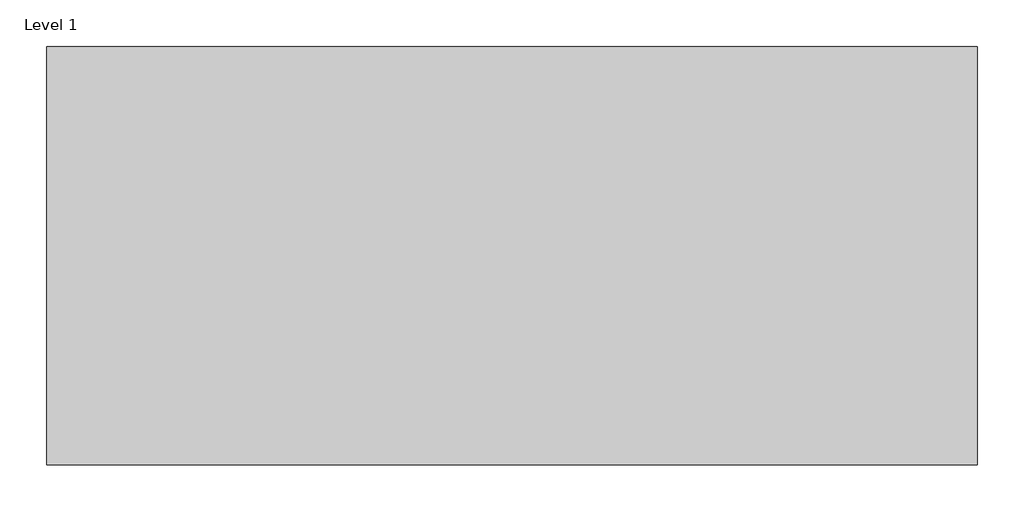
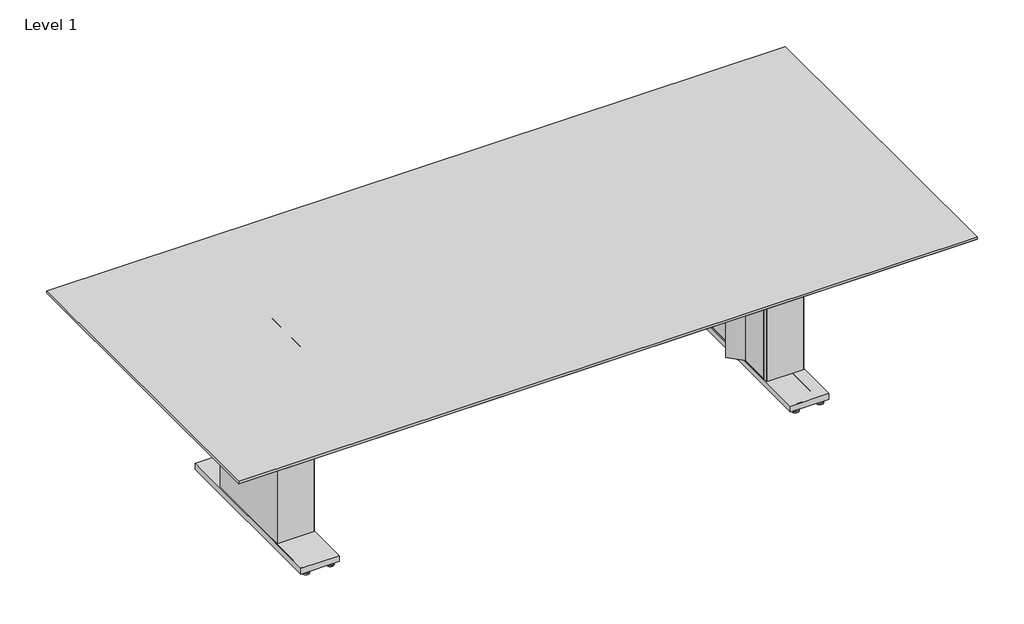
# One storey, incomplete: 35 proxies.
"""IFC4 building model written with IfcOpenShell, lengths in millimetres."""

from ifc_helpers import new_model, si_unit, origin, place, context, project, spatial, transform, mapped, element, save
from components import generic_models_c50f7457, generic_models_df8657d8, generic_models_0eff05cb, generic_models_6af799cc, generic_models_e8d2fbf6, generic_models_48fb121b, generic_models_4dc68a47, generic_models_ab58716d, generic_models_3069075b, proxy_30_table_base_40ca9fa9

model = new_model("IFC4")

# Units and contexts
model_context = context("Model", 3, world=origin())
ifc_project = project(units=[si_unit("LENGTHUNIT", "METRE", prefix="MILLI")], contexts=[model_context])

# Site, building, storey
site = spatial("IfcSite", under=ifc_project)
building = spatial("IfcBuilding", under=site)
storey = spatial("IfcBuildingStorey", under=building, Name="Level 1", Elevation=0.0)

# Proxies
placement = place(None, origin())
generic_models_shape = generic_models_c50f7457(model_context)
element("IfcBuildingElementProxy", 1, Name="AERO^TABLE 5_54120 CTR TROUGH-POWER LID", ObjectType="AERO^TABLE 5_54120 CTR TROUGH-POWER LID", at=placement, inside=storey, context=model_context, shape_type="MappedRepresentation", body=[
    mapped(generic_models_shape, transform((611.1875, -819.15, 736.6), x_axis=(1.0, 0.0, 0.0), y_axis=(0.0, 0.0, 1.0), z_axis=(0.0, -1.0, 0.0))),
])
element("IfcBuildingElementProxy", 2, Name="AERO^TABLE 5_54120 CTR TROUGH-POWER LID", ObjectType="AERO^TABLE 5_54120 CTR TROUGH-POWER LID", at=placement, inside=storey, context=model_context, shape_type="MappedRepresentation", body=[
    mapped(generic_models_shape, transform((2436.8125, -552.4500001, 736.6), x_axis=(-1.0, 0.0, 0.0), y_axis=(0.0, 0.0, 1.0), z_axis=(0.0, 1.0, 0.0))),
])
generic_models_2_shape = generic_models_df8657d8(model_context)
element("IfcBuildingElementProxy", 3, Name="H-QTRGE-84", ObjectType="H-QTRGE-84", at=placement, inside=storey, context=model_context, shape_type="MappedRepresentation", body=[
    mapped(generic_models_2_shape, transform((457.2, -882.65, 644.525), x_axis=(1.0, 0.0, 0.0), y_axis=(0.0, 0.0, 1.0), z_axis=(0.0, -1.0, 0.0))),
])
element("IfcBuildingElementProxy", 4, Name="H-QTRGE-84", ObjectType="H-QTRGE-84", at=placement, inside=storey, context=model_context, shape_type="MappedRepresentation", body=[
    mapped(generic_models_2_shape, transform((2590.8, -488.95, 644.525), x_axis=(-1.0, 0.0, 0.0), y_axis=(0.0, 0.0, 1.0), z_axis=(0.0, 1.0, 0.0))),
])
generic_models_3_shape = generic_models_0eff05cb(model_context)
element("IfcBuildingElementProxy", 5, Name="BYRNE 4 TRAC-2 USB", ObjectType="BYRNE 4 TRAC-2 USB", at=placement, inside=storey, context=model_context, shape_type="MappedRepresentation", body=[
    mapped(generic_models_3_shape, transform((764.38125, -700.1695268, 656.8973148), x_axis=(-1.0000000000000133, 0.0, 0.0), y_axis=(0.0, -0.48191874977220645, 0.8762159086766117), z_axis=(0.0, 0.8762159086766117, 0.48191874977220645))),
])
element("IfcBuildingElementProxy", 6, Name="BYRNE 4 TRAC-2 USB", ObjectType="BYRNE 4 TRAC-2 USB", at=placement, inside=storey, context=model_context, shape_type="MappedRepresentation", body=[
    mapped(generic_models_3_shape, transform((2283.61875, -671.4177731, 656.8973149), x_axis=(1.0000000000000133, 0.0, 0.0), y_axis=(0.0, 0.48191874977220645, 0.8762159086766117), z_axis=(0.0, -0.8762159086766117, 0.48191874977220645))),
])
element("IfcBuildingElementProxy", 7, Name="BYRNE 4 TRAC-2 USB", ObjectType="BYRNE 4 TRAC-2 USB", at=placement, inside=storey, context=model_context, shape_type="MappedRepresentation", body=[
    mapped(generic_models_3_shape, transform((789.78125, -671.4177731, 656.8973149), x_axis=(1.0000000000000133, 0.0, 0.0), y_axis=(0.0, 0.48191874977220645, 0.8762159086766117), z_axis=(0.0, -0.8762159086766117, 0.48191874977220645))),
])
element("IfcBuildingElementProxy", 8, Name="BYRNE 4 TRAC-2 USB", ObjectType="BYRNE 4 TRAC-2 USB", at=placement, inside=storey, context=model_context, shape_type="MappedRepresentation", body=[
    mapped(generic_models_3_shape, transform((2258.21875, -700.1695268, 656.8973148), x_axis=(-1.0000000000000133, 0.0, 0.0), y_axis=(0.0, -0.48191874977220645, 0.8762159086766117), z_axis=(0.0, 0.8762159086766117, 0.48191874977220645))),
])
element("IfcBuildingElementProxy", 9, Name="BYRNE 4 TRAC-2 USB", ObjectType="BYRNE 4 TRAC-2 USB", at=placement, inside=storey, context=model_context, shape_type="MappedRepresentation", body=[
    mapped(generic_models_3_shape, transform((1758.15625, -700.1695268, 656.8973148), x_axis=(-1.0000000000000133, 0.0, 0.0), y_axis=(0.0, -0.48191874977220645, 0.8762159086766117), z_axis=(0.0, 0.8762159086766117, 0.48191874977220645))),
])
element("IfcBuildingElementProxy", 10, Name="BYRNE 4 TRAC-2 USB", ObjectType="BYRNE 4 TRAC-2 USB", at=placement, inside=storey, context=model_context, shape_type="MappedRepresentation", body=[
    mapped(generic_models_3_shape, transform((1289.84375, -671.4177731, 656.8973149), x_axis=(1.0000000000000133, 0.0, 0.0), y_axis=(0.0, 0.48191874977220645, 0.8762159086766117), z_axis=(0.0, -0.8762159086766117, 0.48191874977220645))),
])
element("IfcBuildingElementProxy", 11, Name="BYRNE 4 TRAC-2 USB", ObjectType="BYRNE 4 TRAC-2 USB", at=placement, inside=storey, context=model_context, shape_type="MappedRepresentation", body=[
    mapped(generic_models_3_shape, transform((1783.55625, -671.4177731, 656.8973149), x_axis=(1.0000000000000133, 0.0, 0.0), y_axis=(0.0, 0.48191874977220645, 0.8762159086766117), z_axis=(0.0, -0.8762159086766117, 0.48191874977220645))),
])
element("IfcBuildingElementProxy", 12, Name="BYRNE 4 TRAC-2 USB", ObjectType="BYRNE 4 TRAC-2 USB", at=placement, inside=storey, context=model_context, shape_type="MappedRepresentation", body=[
    mapped(generic_models_3_shape, transform((1264.44375, -700.1695268, 656.8973148), x_axis=(-0.9999999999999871, 0.0, 0.0), y_axis=(0.0, -0.48191874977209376, 0.8762159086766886), z_axis=(0.0, 0.8762159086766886, 0.48191874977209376))),
])
generic_models_4_shape = generic_models_6af799cc(model_context)
element("IfcBuildingElementProxy", 13, Name="BYRNE 4 TRAC-MM CONNECTOR", ObjectType="BYRNE 4 TRAC-MM CONNECTOR", at=placement, inside=storey, context=model_context, shape_type="MappedRepresentation", body=[
    mapped(generic_models_4_shape, transform((789.78125, -700.6215995, 659.366327), x_axis=(-0.9999999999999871, 0.0, 0.0), y_axis=(0.0, -0.48191874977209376, 0.8762159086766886), z_axis=(0.0, 0.8762159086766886, 0.48191874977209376))),
])
element("IfcBuildingElementProxy", 14, Name="BYRNE 4 TRAC-MM CONNECTOR", ObjectType="BYRNE 4 TRAC-MM CONNECTOR", at=placement, inside=storey, context=model_context, shape_type="MappedRepresentation", body=[
    mapped(generic_models_4_shape, transform((2258.21875, -670.9657005, 659.366327), x_axis=(1.0000000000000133, 0.0, 0.0), y_axis=(0.0, 0.48191874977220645, 0.8762159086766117), z_axis=(0.0, -0.8762159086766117, 0.48191874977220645))),
])
element("IfcBuildingElementProxy", 15, Name="BYRNE 4 TRAC-MM CONNECTOR", ObjectType="BYRNE 4 TRAC-MM CONNECTOR", at=placement, inside=storey, context=model_context, shape_type="MappedRepresentation", body=[
    mapped(generic_models_4_shape, transform((1289.84375, -700.6215995, 659.366327), x_axis=(-0.9999999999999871, 0.0, 0.0), y_axis=(0.0, -0.48191874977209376, 0.8762159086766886), z_axis=(0.0, 0.8762159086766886, 0.48191874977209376))),
])
element("IfcBuildingElementProxy", 16, Name="BYRNE 4 TRAC-MM CONNECTOR", ObjectType="BYRNE 4 TRAC-MM CONNECTOR", at=placement, inside=storey, context=model_context, shape_type="MappedRepresentation", body=[
    mapped(generic_models_4_shape, transform((1758.15625, -670.9657005, 659.366327), x_axis=(1.0000000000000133, 0.0, 0.0), y_axis=(0.0, 0.48191874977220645, 0.8762159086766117), z_axis=(0.0, -0.8762159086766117, 0.48191874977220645))),
])
element("IfcBuildingElementProxy", 17, Name="BYRNE 4 TRAC-MM CONNECTOR", ObjectType="BYRNE 4 TRAC-MM CONNECTOR", at=placement, inside=storey, context=model_context, shape_type="MappedRepresentation", body=[
    mapped(generic_models_4_shape, transform((1264.44375, -670.9657005, 659.366327), x_axis=(1.0000000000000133, 0.0, 0.0), y_axis=(0.0, 0.48191874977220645, 0.8762159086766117), z_axis=(0.0, -0.8762159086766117, 0.48191874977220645))),
])
element("IfcBuildingElementProxy", 18, Name="BYRNE 4 TRAC-MM CONNECTOR", ObjectType="BYRNE 4 TRAC-MM CONNECTOR", at=placement, inside=storey, context=model_context, shape_type="MappedRepresentation", body=[
    mapped(generic_models_4_shape, transform((1783.55625, -700.6215995, 659.366327), x_axis=(-1.0000000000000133, 0.0, 0.0), y_axis=(0.0, -0.48191874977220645, 0.8762159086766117), z_axis=(0.0, 0.8762159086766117, 0.48191874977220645))),
])
element("IfcBuildingElementProxy", 19, Name="BYRNE 4 TRAC-MM CONNECTOR", ObjectType="BYRNE 4 TRAC-MM CONNECTOR", at=placement, inside=storey, context=model_context, shape_type="MappedRepresentation", body=[
    mapped(generic_models_4_shape, transform((2283.61875, -700.6215995, 659.366327), x_axis=(-1.0000000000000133, 0.0, 0.0), y_axis=(0.0, -0.48191874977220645, 0.8762159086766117), z_axis=(0.0, 0.8762159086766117, 0.48191874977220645))),
])
element("IfcBuildingElementProxy", 20, Name="BYRNE 4 TRAC-MM CONNECTOR", ObjectType="BYRNE 4 TRAC-MM CONNECTOR", at=placement, inside=storey, context=model_context, shape_type="MappedRepresentation", body=[
    mapped(generic_models_4_shape, transform((764.38125, -670.9657005, 659.366327), x_axis=(1.0000000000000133, 0.0, 0.0), y_axis=(0.0, 0.48191874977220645, 0.8762159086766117), z_axis=(0.0, -0.8762159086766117, 0.48191874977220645))),
])
generic_models_5_shape = generic_models_e8d2fbf6(model_context)
element("IfcBuildingElementProxy", 21, Name="BYRNE 4 TRAC-2 POWER", ObjectType="BYRNE 4 TRAC-2 POWER", at=placement, inside=storey, context=model_context, shape_type="MappedRepresentation", body=[
    mapped(generic_models_5_shape, transform((623.09375, -671.4177731, 656.8973149), x_axis=(1.0000000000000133, 0.0, 0.0), y_axis=(0.0, 0.48191874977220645, 0.8762159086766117), z_axis=(0.0, -0.8762159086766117, 0.48191874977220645))),
])
element("IfcBuildingElementProxy", 22, Name="BYRNE 4 TRAC-2 POWER", ObjectType="BYRNE 4 TRAC-2 POWER", at=placement, inside=storey, context=model_context, shape_type="MappedRepresentation", body=[
    mapped(generic_models_5_shape, transform((1924.84375, -700.1695268, 656.8973148), x_axis=(-1.0000000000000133, 0.0, 0.0), y_axis=(0.0, -0.48191874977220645, 0.8762159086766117), z_axis=(0.0, 0.8762159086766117, 0.48191874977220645))),
])
element("IfcBuildingElementProxy", 23, Name="BYRNE 4 TRAC-2 POWER", ObjectType="BYRNE 4 TRAC-2 POWER", at=placement, inside=storey, context=model_context, shape_type="MappedRepresentation", body=[
    mapped(generic_models_5_shape, transform((2116.93125, -671.4177731, 656.8973149), x_axis=(1.0000000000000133, 0.0, 0.0), y_axis=(0.0, 0.48191874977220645, 0.8762159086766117), z_axis=(0.0, -0.8762159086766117, 0.48191874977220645))),
])
element("IfcBuildingElementProxy", 24, Name="BYRNE 4 TRAC-2 POWER", ObjectType="BYRNE 4 TRAC-2 POWER", at=placement, inside=storey, context=model_context, shape_type="MappedRepresentation", body=[
    mapped(generic_models_5_shape, transform((931.06875, -700.1695268, 656.8973148), x_axis=(-0.9999999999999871, 0.0, 0.0), y_axis=(0.0, -0.48191874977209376, 0.8762159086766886), z_axis=(0.0, 0.8762159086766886, 0.48191874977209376))),
])
element("IfcBuildingElementProxy", 25, Name="BYRNE 4 TRAC-2 POWER", ObjectType="BYRNE 4 TRAC-2 POWER", at=placement, inside=storey, context=model_context, shape_type="MappedRepresentation", body=[
    mapped(generic_models_5_shape, transform((1616.86875, -671.4177731, 656.8973149), x_axis=(1.0000000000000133, 0.0, 0.0), y_axis=(0.0, 0.48191874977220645, 0.8762159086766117), z_axis=(0.0, -0.8762159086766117, 0.48191874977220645))),
])
element("IfcBuildingElementProxy", 26, Name="BYRNE 4 TRAC-2 POWER", ObjectType="BYRNE 4 TRAC-2 POWER", at=placement, inside=storey, context=model_context, shape_type="MappedRepresentation", body=[
    mapped(generic_models_5_shape, transform((1123.15625, -671.4177731, 656.8973149), x_axis=(1.0000000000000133, 0.0, 0.0), y_axis=(0.0, 0.48191874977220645, 0.8762159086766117), z_axis=(0.0, -0.8762159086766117, 0.48191874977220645))),
])
element("IfcBuildingElementProxy", 27, Name="BYRNE 4 TRAC-2 POWER", ObjectType="BYRNE 4 TRAC-2 POWER", at=placement, inside=storey, context=model_context, shape_type="MappedRepresentation", body=[
    mapped(generic_models_5_shape, transform((2424.90625, -700.1695268, 656.8973148), x_axis=(-1.0000000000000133, 0.0, 0.0), y_axis=(0.0, -0.48191874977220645, 0.8762159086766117), z_axis=(0.0, 0.8762159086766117, 0.48191874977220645))),
])
element("IfcBuildingElementProxy", 28, Name="BYRNE 4 TRAC-2 POWER", ObjectType="BYRNE 4 TRAC-2 POWER", at=placement, inside=storey, context=model_context, shape_type="MappedRepresentation", body=[
    mapped(generic_models_5_shape, transform((1431.13125, -700.1695268, 656.8973148), x_axis=(-0.9999999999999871, 0.0, 0.0), y_axis=(0.0, -0.48191874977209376, 0.8762159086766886), z_axis=(0.0, 0.8762159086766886, 0.48191874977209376))),
])
generic_models_6_shape = generic_models_48fb121b(model_context)
element("IfcBuildingElementProxy", 29, Name="_AMC-614-V-UPRIGHTS-REV2", ObjectType="_AMC-614-V-UPRIGHTS-REV2", at=placement, inside=storey, context=model_context, shape_type="MappedRepresentation", body=[
    mapped(generic_models_6_shape, transform((457.2, -868.3625, 44.0132375), x_axis=(0.0, 1.0, 0.0), y_axis=(0.0, 0.0, 1.0), z_axis=(1.0, 0.0, 0.0))),
])
element("IfcBuildingElementProxy", 30, Name="_AMC-614-V-UPRIGHTS-REV2", ObjectType="_AMC-614-V-UPRIGHTS-REV2", at=placement, inside=storey, context=model_context, shape_type="MappedRepresentation", body=[
    mapped(generic_models_6_shape, transform((2590.8, -503.2375, 44.0132375), x_axis=(0.0, -1.0, 0.0), y_axis=(0.0, 0.0, 1.0), z_axis=(-1.0, 0.0, 0.0))),
])
generic_models_7_shape = generic_models_4dc68a47(model_context)
element("IfcBuildingElementProxy", 31, Name="AERO^TABLE 5_54120 CTR TROUGH-POWER LID HINGE SOLID", ObjectType="AERO^TABLE 5_54120 CTR TROUGH-POWER LID HINGE SOLID", at=placement, inside=storey, context=model_context, shape_type="MappedRepresentation", body=[
    mapped(generic_models_7_shape, transform((610.5906, -665.1625, 680.6819), x_axis=(1.0, 0.0, 0.0), y_axis=(0.0, 0.0, 1.0), z_axis=(0.0, -1.0, 0.0))),
])
generic_models_8_shape = generic_models_ab58716d(model_context)
element("IfcBuildingElementProxy", 32, Name="AERO^TABLE 5_54120 CTR TROUGH-PARTS SOLID", ObjectType="AERO^TABLE 5_54120 CTR TROUGH-PARTS SOLID", at=placement, inside=storey, context=model_context, shape_type="MappedRepresentation", body=[
    mapped(generic_models_8_shape, transform((0.0, -1371.6, 723.9), x_axis=(1.0, 0.0, 0.0), y_axis=(0.0, 0.0, 1.0), z_axis=(0.0, -1.0, 0.0))),
])
generic_models_9_shape = generic_models_3069075b(model_context)
element("IfcBuildingElementProxy", 33, Name="AERO^TABLE 5_54120 CTR TROUGH-MOD TROUGH", ObjectType="AERO^TABLE 5_54120 CTR TROUGH-MOD TROUGH", at=placement, inside=storey, context=model_context, shape_type="MappedRepresentation", body=[
    mapped(generic_models_9_shape, transform((609.6, -523.875, 644.7663), x_axis=(0.0, 0.0, 1.0), y_axis=(0.0, -1.0, 0.0), z_axis=(1.0, 0.0, 0.0))),
])
proxy_30_table_base_shape = proxy_30_table_base_40ca9fa9(model_context)
element("IfcBuildingElementProxy", 34, Name="30 table base", ObjectType="30 table base", at=placement, inside=storey, context=model_context, shape_type="MappedRepresentation", body=[
    mapped(proxy_30_table_base_shape, transform((434.975, -1063.625, 12.7), x_axis=(1.0, 0.0, 0.0), y_axis=(0.0, 0.0, 1.0), z_axis=(0.0, -1.0, 0.0))),
])
element("IfcBuildingElementProxy", 35, Name="30 table base", ObjectType="30 table base", at=placement, inside=storey, context=model_context, shape_type="MappedRepresentation", body=[
    mapped(proxy_30_table_base_shape, transform((2454.275, -1063.625, 12.7), x_axis=(1.0, 0.0, 0.0), y_axis=(0.0, 0.0, 1.0), z_axis=(0.0, -1.0, 0.0))),
])

save(model, "model.ifc")
